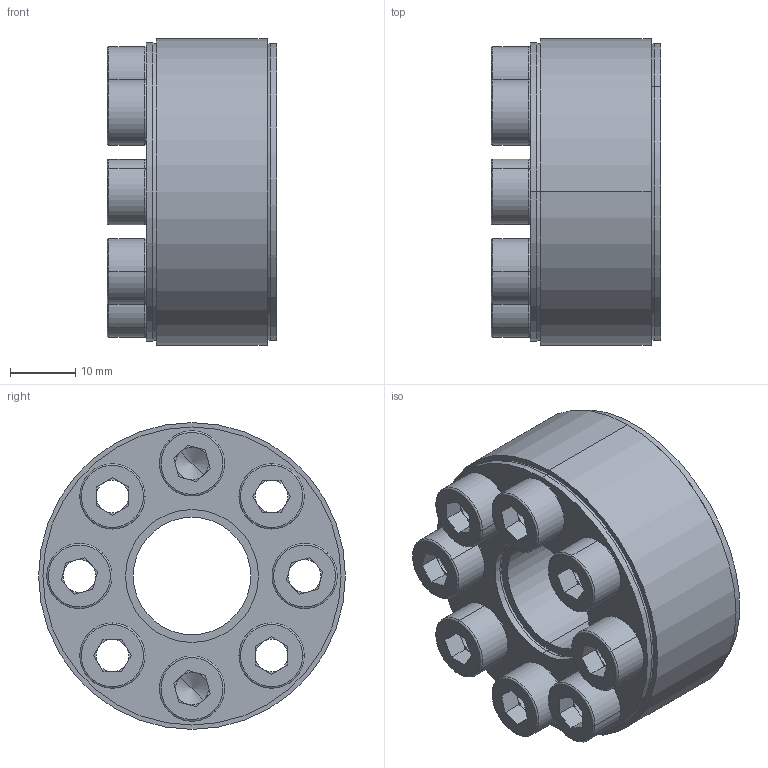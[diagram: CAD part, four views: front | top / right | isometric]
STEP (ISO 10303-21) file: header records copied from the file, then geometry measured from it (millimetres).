
FILE_DESCRIPTION (( 'STEP AP203' ), '1' );
FILE_NAME ('D1-18-47.STEP', '2017-11-06T23:26:22', ( 'MYCOM' ), ( '' ), 'SwSTEP 2.0', 'SolidWorks 2015', '' );
FILE_SCHEMA (( 'CONFIG_CONTROL_DESIGN' ));
Length unit declared in the file: millimetre
Products named in the file (1): D1-18-47
Bounding box: 26 x 47 x 47 mm (x, y, z)
Surface area: 13004.6 mm2 (no closed solid volume)
Topology: 0 solids, 12 shells, 212 faces, 516 edges, 314 vertices
Faces by surface type: plane 108, cylinder 60, torus 32, cone 12
Entity records: 6230 total; most frequent: DIRECTION 1186, CARTESIAN_POINT 1039, ORIENTED_EDGE 942, EDGE_CURVE 512, AXIS2_PLACEMENT_3D 461, VERTEX_POINT 314, VECTOR 264, LINE 264
